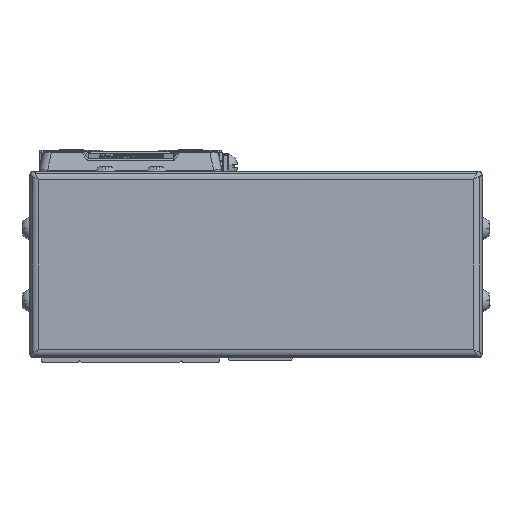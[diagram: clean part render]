
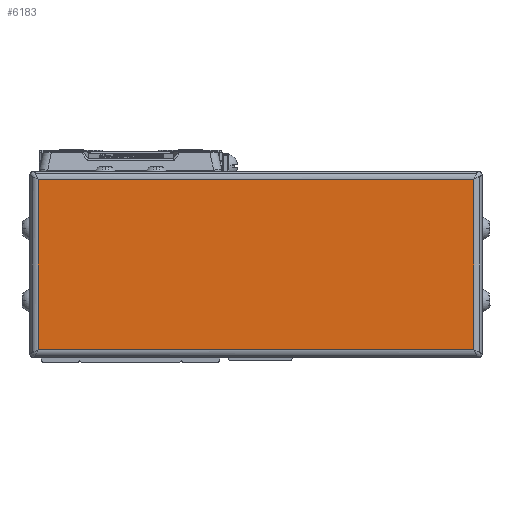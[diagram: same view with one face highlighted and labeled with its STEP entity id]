
A CAD part, left-side view. The second image highlights one B-rep face of the part: STEP entity #6183.
In plain terms, the highlighted planar face has unit normal (-1, 0, 0).
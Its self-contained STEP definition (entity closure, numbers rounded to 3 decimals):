
#6183=ADVANCED_FACE('',(#12769),#12770,.T.);
#12769=FACE_OUTER_BOUND('',#22630,.T.);
#12770=PLANE('',#22631);
#22630=EDGE_LOOP('',(#40623,#40624,#40625,#40626));
#22631=AXIS2_PLACEMENT_3D('',#40627,#40628,#40629);
#40623=ORIENTED_EDGE('',*,*,#45684,.F.);
#40624=ORIENTED_EDGE('',*,*,#50807,.F.);
#40625=ORIENTED_EDGE('',*,*,#47077,.F.);
#40626=ORIENTED_EDGE('',*,*,#47131,.F.);
#40627=CARTESIAN_POINT('',(-48.,-29.5,-4.));
#40628=DIRECTION('',(-1.0,0.,0.));
#40629=DIRECTION('',(0.,0.,1.0));
#45684=EDGE_CURVE('',#54699,#54701,#54702,.T.);
#47077=EDGE_CURVE('',#56976,#56978,#56979,.T.);
#47131=EDGE_CURVE('',#54701,#56976,#57058,.T.);
#50807=EDGE_CURVE('',#56978,#54699,#62174,.T.);
#54699=VERTEX_POINT('',#67551);
#54701=VERTEX_POINT('',#67553);
#54702=LINE('',#67554,#67555);
#56976=VERTEX_POINT('',#70741);
#56978=VERTEX_POINT('',#70743);
#56979=LINE('',#70744,#70745);
#57058=LINE('',#70851,#70852);
#62174=LINE('',#78128,#78129);
#67551=CARTESIAN_POINT('',(-48.,21.7,16.));
#67553=CARTESIAN_POINT('',(-48.,-80.7,16.));
#67554=CARTESIAN_POINT('',(-48.,-29.5,16.));
#67555=VECTOR('',#82025,10.0);
#70741=CARTESIAN_POINT('',(-48.,-80.7,-24.));
#70743=CARTESIAN_POINT('',(-48.,21.7,-24.));
#70744=CARTESIAN_POINT('',(-48.,-29.5,-24.));
#70745=VECTOR('',#83910,10.0);
#70851=CARTESIAN_POINT('',(-48.,-80.7,-4.));
#70852=VECTOR('',#83974,10.0);
#78128=CARTESIAN_POINT('',(-48.,21.7,-4.));
#78129=VECTOR('',#88487,10.0);
#82025=DIRECTION('',(0.,-1.0,0.));
#83910=DIRECTION('',(0.,1.0,0.));
#83974=DIRECTION('',(0.,0.,-1.0));
#88487=DIRECTION('',(0.,0.,1.0));
